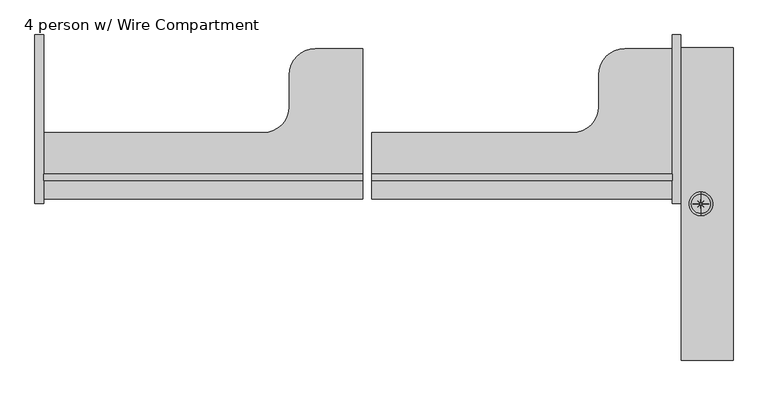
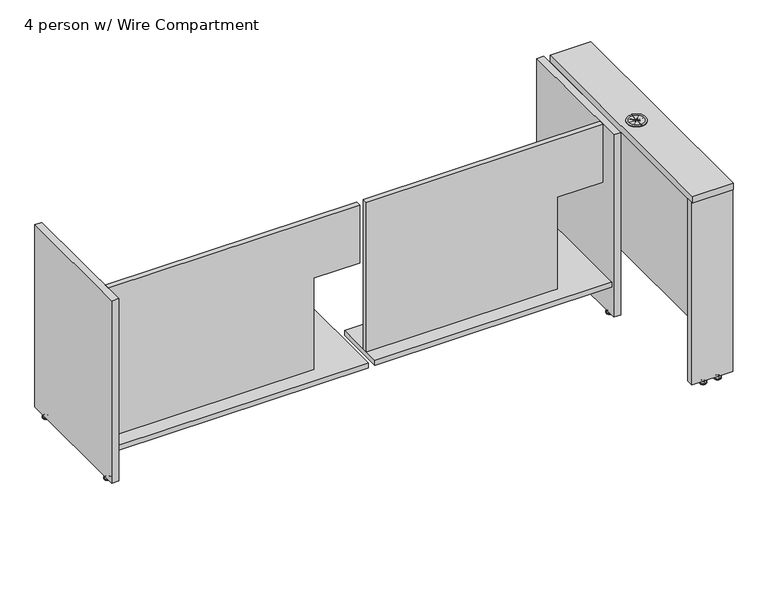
"""IFC4 building model written with IfcOpenShell, lengths in millimetres: furniture geometry, Nova Solutions - Collaboration Table - Boat_4-6 person : 4 person w/ Wire Compartment."""

from ifc_helpers import new_model, si_unit, point, frame, frame_2d, origin, place, context, project, spatial, polyline, circle_curve, ellipse_curve, trimmed, segment, composite_curve, outline, extrude, source, transform, mapped, element, save
from ifc_brep_helpers import plane_surface, cylinder_surface, revolved_surface, advanced_brep


def furniture_4_person_w_wire_compartment_36183c5d(model_context):
    return source(origin(), model_context, "Body", "SolidModel", [
        advanced_brep(
        [(981.65, -34.925, 762.0), (981.65, 34.925, 762.0), (981.65, 24.6435157, 762.0), (980.503542, 2.7677944, 762.0), (964.2244029, 17.4255971, 762.0), (978.8822056, 1.146458, 762.0), (957.0064843, 0.0, 762.0), (978.8822056, -1.146458, 762.0), (964.2244029, -17.4255971, 762.0), (980.503542, -2.7677944, 762.0), (981.65, -24.6435157, 762.0), (982.796458, -2.7677944, 762.0), (999.0755971, -17.4255971, 762.0), (984.4177944, -1.146458, 762.0), (1006.2935157, 0.0, 762.0), (984.4177944, 1.146458, 762.0), (999.0755971, 17.4255971, 762.0), (982.796458, 2.7677944, 762.0), (981.65, -34.925, 763.3787817), (981.65, 34.925, 763.3787817), (981.65, -28.7119174, 765.175), (981.65, 28.7119174, 765.175), (981.65, -24.6435157, 765.175), (980.503542, -2.7677944, 765.175), (964.2244029, -17.4255971, 765.175), (978.8822056, -1.146458, 765.175), (957.0064843, 0.0, 765.175), (978.8822056, 1.146458, 765.175), (964.2244029, 17.4255971, 765.175), (980.503542, 2.7677944, 765.175), (981.65, 24.6435157, 765.175), (982.796458, 2.7677944, 765.175), (999.0755971, 17.4255971, 765.175), (984.4177944, 1.146458, 765.175), (1006.2935157, 0.0, 765.175), (984.4177944, -1.146458, 765.175), (999.0755971, -17.4255971, 765.175), (982.796458, -2.7677944, 765.175)],
        [
            (0, 1, circle_curve(frame((981.65, 0.0, 762.0), z_axis=(0.0, 0.0, -1.0), x_axis=(0.0, 1.0, 0.0)), 34.925)),
            (1, 2),
            (2, 3),
            (3, 4),
            (4, 5),
            (5, 6),
            (6, 7),
            (7, 8),
            (8, 9),
            (9, 10),
            (10, 0),
            (1, 0, circle_curve(frame((981.65, 0.0, 762.0), z_axis=(0.0, 0.0, -1.0), x_axis=(0.0, 1.0, 0.0)), 34.925)),
            (10, 11),
            (11, 12),
            (12, 13),
            (13, 14),
            (14, 15),
            (15, 16),
            (16, 17),
            (17, 2),
            (0, 18),
            (18, 19, circle_curve(frame((981.65, 0.0, 763.3787817), z_axis=(0.0, 0.0, -1.0), x_axis=(0.0, 1.0, 0.0)), 34.925)),
            (19, 1),
            (19, 18, circle_curve(frame((981.65, 0.0, 763.3787817), z_axis=(0.0, 0.0, -1.0), x_axis=(0.0, 1.0, 0.0)), 34.925)),
            (18, 20, circle_curve(frame((981.65, -31.558813, 763.3787817), z_axis=(-1.0, 0.0, 0.0), x_axis=(0.0, -1.0, 0.0)), 3.366187)),
            (20, 21, circle_curve(frame((981.65, 0.0, 765.175), z_axis=(0.0, 0.0, -1.0), x_axis=(0.0, 1.0, 0.0)), 28.7119174)),
            (21, 19, circle_curve(frame((981.65, 31.558813, 763.3787817), z_axis=(-1.0, 0.0, 0.0), x_axis=(0.0, 1.0, 0.0)), 3.366187)),
            (21, 20, circle_curve(frame((981.65, 0.0, 765.175), z_axis=(0.0, 0.0, -1.0), x_axis=(0.0, 1.0, 0.0)), 28.7119174)),
            (20, 22),
            (22, 23),
            (23, 24),
            (24, 25),
            (25, 26),
            (26, 27),
            (27, 28),
            (28, 29),
            (29, 30),
            (30, 21),
            (30, 31),
            (31, 32),
            (32, 33),
            (33, 34),
            (34, 35),
            (35, 36),
            (36, 37),
            (37, 22),
            (26, 6),
            (5, 27),
            (25, 7),
            (24, 8),
            (23, 9),
            (22, 10),
            (37, 11),
            (36, 12),
            (35, 13),
            (34, 14),
            (33, 15),
            (32, 16),
            (31, 17),
            (30, 2),
            (29, 3),
            (28, 4),
        ],
        [
            plane_surface(frame((981.65, 0.0, 762.0), z_axis=(0.0, 0.0, -1.0), x_axis=(0.0, 1.0, 0.0))),
            cylinder_surface(frame((981.65, 0.0, 850.9), z_axis=(0.0, 0.0, 1.0), x_axis=(0.0, 1.0, 0.0)), 34.925),
            revolved_surface(trimmed(ellipse_curve(frame((981.65, 31.558813, 763.3787817), z_axis=(1.0, 0.0, 0.0), x_axis=(0.0, 1.0, 0.0)), 3.366187, 3.366187), [point((981.65, 34.925, 763.3787817))], [point((981.65, 28.7119174, 765.175))], True, "CARTESIAN"), (981.65, 0.0, 850.9), (0.0, 0.0, 1.0)),
            plane_surface(frame((981.65, 0.0, 765.175), z_axis=(0.0, 0.0, 1.0), x_axis=(0.0, 1.0, 0.0))),
            plane_surface(frame((981.65, 1.2915119, 787.4), z_axis=(0.05233595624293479, -0.9986295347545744, 0.0), x_axis=(0.0, 0.0, -1.0))),
            plane_surface(frame((957.0064843, 0.0, 787.4), z_axis=(0.052335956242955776, 0.9986295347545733, 0.0), x_axis=(0.0, 0.0, -1.0))),
            plane_surface(frame((980.7367632, 0.9132368, 787.4), z_axis=(0.7431448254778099, -0.6691306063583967, 0.0), x_axis=(0.0, 0.0, -1.0))),
            plane_surface(frame((964.2244029, -17.4255971, 787.4), z_axis=(-0.6691306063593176, 0.7431448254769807, 0.0), x_axis=(0.0, 0.0, -1.0))),
            plane_surface(frame((980.3584881, 0.0, 787.4), z_axis=(0.9986295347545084, 0.05233595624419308, 0.0), x_axis=(0.0, 0.0, -1.0))),
            plane_surface(frame((981.65, -24.6435157, 787.4), z_axis=(-0.9986295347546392, 0.05233595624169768, 0.0), x_axis=(0.0, 0.0, -1.0))),
            plane_surface(frame((980.7367632, -0.9132368, 787.4), z_axis=(0.6691306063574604, 0.743144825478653, 0.0), x_axis=(0.0, 0.0, -1.0))),
            plane_surface(frame((999.0755971, -17.4255971, 787.4), z_axis=(-0.7431448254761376, -0.669130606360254, 0.0), x_axis=(0.0, 0.0, -1.0))),
            plane_surface(frame((981.65, -1.2915119, 787.4), z_axis=(-0.052335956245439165, 0.9986295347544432, 0.0), x_axis=(0.0, 0.0, -1.0))),
            plane_surface(frame((1006.2935157, 0.0, 787.4), z_axis=(-0.05233595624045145, -0.9986295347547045, 0.0), x_axis=(0.0, 0.0, -1.0))),
            plane_surface(frame((982.5632368, -0.9132368, 787.4), z_axis=(-0.7431448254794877, 0.6691306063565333, 0.0), x_axis=(0.0, 0.0, -1.0))),
            plane_surface(frame((999.0755971, 17.4255971, 787.4), z_axis=(0.669130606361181, -0.7431448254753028, 0.0), x_axis=(0.0, 0.0, -1.0))),
            plane_surface(frame((982.9415119, 0.0, 787.4), z_axis=(-0.9986295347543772, -0.05233595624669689, 0.0), x_axis=(0.0, 0.0, -1.0))),
            plane_surface(frame((981.65, 24.6435157, 787.4), z_axis=(0.9986295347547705, -0.05233595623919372, 0.0), x_axis=(0.0, 0.0, -1.0))),
            plane_surface(frame((982.5632368, 0.9132368, 787.4), z_axis=(-0.6691306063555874, -0.7431448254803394, 0.0), x_axis=(0.0, 0.0, -1.0))),
            plane_surface(frame((964.2244029, 17.4255971, 787.4), z_axis=(0.743144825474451, 0.669130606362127, 0.0), x_axis=(0.0, 0.0, -1.0))),
        ],
        [
            (0, [[1, 2, 3, 4, 5, 6, 7, 8, 9, 10, 11]]),
            (0, [[12, -11, 13, 14, 15, 16, 17, 18, 19, 20, -2]]),
            (1, [[-1, 21, 22, 23]]),
            (1, [[-12, -23, 24, -21]]),
            (2, [[-22, 25, 26, 27]]),
            (2, [[-24, -27, 28, -25]]),
            (3, [[-26, 29, 30, 31, 32, 33, 34, 35, 36, 37, 38]]),
            (3, [[-28, -38, 39, 40, 41, 42, 43, 44, 45, 46, -29]]),
            (4, [[47, -6, 48, -34]]),
            (5, [[-47, -33, 49, -7]]),
            (6, [[50, -8, -49, -32]]),
            (7, [[-50, -31, 51, -9]]),
            (8, [[52, -10, -51, -30]]),
            (9, [[-52, -46, 53, -13]]),
            (10, [[54, -14, -53, -45]]),
            (11, [[-54, -44, 55, -15]]),
            (12, [[56, -16, -55, -43]]),
            (13, [[-56, -42, 57, -17]]),
            (14, [[58, -18, -57, -41]]),
            (15, [[-58, -40, 59, -19]]),
            (16, [[60, -20, -59, -39]]),
            (17, [[-60, -37, 61, -3]]),
            (18, [[62, -4, -61, -36]]),
            (19, [[-62, -35, -48, -5]]),
        ],
    ),
        advanced_brep(
        [(1027.6359375, 451.0276506, 11.1125), (1027.6359375, 437.6723494, 11.1125), (1027.6359375, 444.35, 11.1125), (1027.6359375, 451.0276506, 9.525), (1027.6359375, 437.6723494, 9.525), (1027.6359375, 456.2355135, 4.7748687), (1027.6359375, 432.4644865, 4.7748687), (1027.6359375, 457.0966506, 3.989419), (1027.6359375, 431.6033494, 3.989419), (1027.6359375, 457.0966506, 3.175), (1027.6359375, 431.6033494, 3.175), (1027.6359375, 456.2459119, 0.0), (1027.6359375, 432.4540881, 0.0), (1027.6359375, 444.35, 0.0)],
        [
            (0, 1, circle_curve(frame((1027.6359375, 444.35, 11.1125), z_axis=(0.0, 0.0, 1.0), x_axis=(0.0, -1.0, 0.0)), 6.6776506)),
            (1, 2),
            (2, 0),
            (1, 0, circle_curve(frame((1027.6359375, 444.35, 11.1125), z_axis=(0.0, 0.0, 1.0), x_axis=(0.0, -1.0, 0.0)), 6.6776506)),
            (3, 4, circle_curve(frame((1027.6359375, 444.35, 9.525), z_axis=(0.0, 0.0, 1.0), x_axis=(0.0, -1.0, 0.0)), 6.6776506)),
            (4, 1),
            (0, 3),
            (4, 3, circle_curve(frame((1027.6359375, 444.35, 9.525), z_axis=(0.0, 0.0, 1.0), x_axis=(0.0, -1.0, 0.0)), 6.6776506)),
            (5, 6, circle_curve(frame((1027.6359375, 444.35, 4.7748687), z_axis=(0.0, 0.0, 1.0), x_axis=(0.0, -1.0, 0.0)), 11.8855135)),
            (6, 4, circle_curve(frame((1027.6359375, 431.4179373, 11.1521822), z_axis=(1.0, 0.0, 0.0), x_axis=(0.0, 1.0, 0.0)), 6.462615)),
            (3, 5, circle_curve(frame((1027.6359375, 457.2820627, 11.1521822), z_axis=(1.0, 0.0, 0.0), x_axis=(0.0, -1.0, 0.0)), 6.462615)),
            (6, 5, circle_curve(frame((1027.6359375, 444.35, 4.7748687), z_axis=(0.0, 0.0, 1.0), x_axis=(0.0, -1.0, 0.0)), 11.8855135)),
            (7, 8, circle_curve(frame((1027.6359375, 444.35, 3.989419), z_axis=(0.0, 0.0, 1.0), x_axis=(0.0, -1.0, 0.0)), 12.7466506)),
            (8, 6, circle_curve(frame((1027.6359375, 432.6375368, 3.7203591), z_axis=(-1.0, 0.0, 0.0), x_axis=(0.0, 1.0, 0.0)), 1.0686145)),
            (5, 7, circle_curve(frame((1027.6359375, 456.0624632, 3.7203591), z_axis=(-1.0, 0.0, 0.0), x_axis=(0.0, -1.0, 0.0)), 1.0686145)),
            (8, 7, circle_curve(frame((1027.6359375, 444.35, 3.989419), z_axis=(0.0, 0.0, 1.0), x_axis=(0.0, -1.0, 0.0)), 12.7466506)),
            (9, 10, circle_curve(frame((1027.6359375, 444.35, 3.175), z_axis=(0.0, 0.0, 1.0), x_axis=(0.0, -1.0, 0.0)), 12.7466506)),
            (10, 8),
            (7, 9),
            (10, 9, circle_curve(frame((1027.6359375, 444.35, 3.175), z_axis=(0.0, 0.0, 1.0), x_axis=(0.0, -1.0, 0.0)), 12.7466506)),
            (11, 12, circle_curve(frame((1027.6359375, 444.35, 0.0), z_axis=(0.0, 0.0, 1.0), x_axis=(0.0, -1.0, 0.0)), 11.8959119)),
            (12, 10),
            (9, 11),
            (12, 11, circle_curve(frame((1027.6359375, 444.35, 0.0), z_axis=(0.0, 0.0, 1.0), x_axis=(0.0, -1.0, 0.0)), 11.8959119)),
            (13, 12),
            (11, 13),
        ],
        [
            plane_surface(frame((1027.6359375, 444.35, 11.1125), z_axis=(0.0, 0.0, 1.0), x_axis=(0.0, -1.0, 0.0))),
            cylinder_surface(frame((1027.6359375, 444.35, 43.2095994), z_axis=(0.0, 0.0, -1.0), x_axis=(0.0, -1.0, 0.0)), 6.6776506),
            revolved_surface(trimmed(ellipse_curve(frame((1027.6359375, 431.4179373, 11.1521822), z_axis=(-1.0, 0.0, 0.0), x_axis=(0.0, 1.0, 0.0)), 6.462615, 6.462615), [point((1027.6359375, 437.6723494, 9.525))], [point((1027.6359375, 432.4644865, 4.7748687))], True, "CARTESIAN"), (1027.6359375, 444.35, 43.2095994), (0.0, 0.0, -1.0)),
            revolved_surface(trimmed(ellipse_curve(frame((1027.6359375, 432.6375368, 3.7203591), z_axis=(1.0, 0.0, 0.0), x_axis=(0.0, 1.0, 0.0)), 1.0686145, 1.0686145), [point((1027.6359375, 432.4644865, 4.7748687))], [point((1027.6359375, 431.6033494, 3.989419))], True, "CARTESIAN"), (1027.6359375, 444.35, 43.2095994), (0.0, 0.0, -1.0)),
            cylinder_surface(frame((1027.6359375, 444.35, 43.2095994), z_axis=(0.0, 0.0, -1.0), x_axis=(0.0, -1.0, 0.0)), 12.7466506),
            revolved_surface(polyline([(1027.6359375, 431.6033494, 3.175), (1027.6359375, 432.4540881, 0.0)]), (1027.6359375, 444.35, 43.2095994), (0.0, 0.0, -1.0)),
            plane_surface(frame((1027.6359375, 444.35, 0.0), z_axis=(0.0, 0.0, -1.0), x_axis=(0.0, -1.0, 0.0))),
        ],
        [
            (0, [[1, 2, 3]]),
            (0, [[4, -3, -2]]),
            (1, [[5, 6, -1, 7]]),
            (1, [[8, -7, -4, -6]]),
            (2, [[9, 10, -5, 11]]),
            (2, [[12, -11, -8, -10]]),
            (3, [[13, 14, -9, 15]]),
            (3, [[16, -15, -12, -14]]),
            (4, [[17, 18, -13, 19]]),
            (4, [[20, -19, -16, -18]]),
            (5, [[21, 22, -17, 23]]),
            (5, [[24, -23, -20, -22]]),
            (6, [[25, -21, 26]]),
            (6, [[-26, -24, -25]]),
        ],
    ),
        advanced_brep(
        [(973.2640625, 451.0276506, 11.1125), (973.2640625, 437.6723494, 11.1125), (973.2640625, 444.35, 11.1125), (973.2640625, 451.0276506, 9.525), (973.2640625, 437.6723494, 9.525), (973.2640625, 456.2355135, 4.7748687), (973.2640625, 432.4644865, 4.7748687), (973.2640625, 457.0966506, 3.989419), (973.2640625, 431.6033494, 3.989419), (973.2640625, 457.0966506, 3.175), (973.2640625, 431.6033494, 3.175), (973.2640625, 456.2459119, 0.0), (973.2640625, 432.4540881, 0.0), (973.2640625, 444.35, 0.0)],
        [
            (0, 1, circle_curve(frame((973.2640625, 444.35, 11.1125), z_axis=(0.0, 0.0, 1.0), x_axis=(0.0, -1.0, 0.0)), 6.6776506)),
            (1, 2),
            (2, 0),
            (1, 0, circle_curve(frame((973.2640625, 444.35, 11.1125), z_axis=(0.0, 0.0, 1.0), x_axis=(0.0, -1.0, 0.0)), 6.6776506)),
            (3, 4, circle_curve(frame((973.2640625, 444.35, 9.525), z_axis=(0.0, 0.0, 1.0), x_axis=(0.0, -1.0, 0.0)), 6.6776506)),
            (4, 1),
            (0, 3),
            (4, 3, circle_curve(frame((973.2640625, 444.35, 9.525), z_axis=(0.0, 0.0, 1.0), x_axis=(0.0, -1.0, 0.0)), 6.6776506)),
            (5, 6, circle_curve(frame((973.2640625, 444.35, 4.7748687), z_axis=(0.0, 0.0, 1.0), x_axis=(0.0, -1.0, 0.0)), 11.8855135)),
            (6, 4, circle_curve(frame((973.2640625, 431.4179373, 11.1521822), z_axis=(1.0, 0.0, 0.0), x_axis=(0.0, 1.0, 0.0)), 6.462615)),
            (3, 5, circle_curve(frame((973.2640625, 457.2820627, 11.1521822), z_axis=(1.0, 0.0, 0.0), x_axis=(0.0, -1.0, 0.0)), 6.462615)),
            (6, 5, circle_curve(frame((973.2640625, 444.35, 4.7748687), z_axis=(0.0, 0.0, 1.0), x_axis=(0.0, -1.0, 0.0)), 11.8855135)),
            (7, 8, circle_curve(frame((973.2640625, 444.35, 3.989419), z_axis=(0.0, 0.0, 1.0), x_axis=(0.0, -1.0, 0.0)), 12.7466506)),
            (8, 6, circle_curve(frame((973.2640625, 432.6375368, 3.7203591), z_axis=(-1.0, 0.0, 0.0), x_axis=(0.0, 1.0, 0.0)), 1.0686145)),
            (5, 7, circle_curve(frame((973.2640625, 456.0624632, 3.7203591), z_axis=(-1.0, 0.0, 0.0), x_axis=(0.0, -1.0, 0.0)), 1.0686145)),
            (8, 7, circle_curve(frame((973.2640625, 444.35, 3.989419), z_axis=(0.0, 0.0, 1.0), x_axis=(0.0, -1.0, 0.0)), 12.7466506)),
            (9, 10, circle_curve(frame((973.2640625, 444.35, 3.175), z_axis=(0.0, 0.0, 1.0), x_axis=(0.0, -1.0, 0.0)), 12.7466506)),
            (10, 8),
            (7, 9),
            (10, 9, circle_curve(frame((973.2640625, 444.35, 3.175), z_axis=(0.0, 0.0, 1.0), x_axis=(0.0, -1.0, 0.0)), 12.7466506)),
            (11, 12, circle_curve(frame((973.2640625, 444.35, 0.0), z_axis=(0.0, 0.0, 1.0), x_axis=(0.0, -1.0, 0.0)), 11.8959119)),
            (12, 10),
            (9, 11),
            (12, 11, circle_curve(frame((973.2640625, 444.35, 0.0), z_axis=(0.0, 0.0, 1.0), x_axis=(0.0, -1.0, 0.0)), 11.8959119)),
            (13, 12),
            (11, 13),
        ],
        [
            plane_surface(frame((973.2640625, 444.35, 11.1125), z_axis=(0.0, 0.0, 1.0), x_axis=(0.0, -1.0, 0.0))),
            cylinder_surface(frame((973.2640625, 444.35, 43.2095994), z_axis=(0.0, 0.0, -1.0), x_axis=(0.0, -1.0, 0.0)), 6.6776506),
            revolved_surface(trimmed(ellipse_curve(frame((973.2640625, 431.4179373, 11.1521822), z_axis=(-1.0, 0.0, 0.0), x_axis=(0.0, 1.0, 0.0)), 6.462615, 6.462615), [point((973.2640625, 437.6723494, 9.525))], [point((973.2640625, 432.4644865, 4.7748687))], True, "CARTESIAN"), (973.2640625, 444.35, 43.2095994), (0.0, 0.0, -1.0)),
            revolved_surface(trimmed(ellipse_curve(frame((973.2640625, 432.6375368, 3.7203591), z_axis=(1.0, 0.0, 0.0), x_axis=(0.0, 1.0, 0.0)), 1.0686145, 1.0686145), [point((973.2640625, 432.4644865, 4.7748687))], [point((973.2640625, 431.6033494, 3.989419))], True, "CARTESIAN"), (973.2640625, 444.35, 43.2095994), (0.0, 0.0, -1.0)),
            cylinder_surface(frame((973.2640625, 444.35, 43.2095994), z_axis=(0.0, 0.0, -1.0), x_axis=(0.0, -1.0, 0.0)), 12.7466506),
            revolved_surface(polyline([(973.2640625, 431.6033494, 3.175), (973.2640625, 432.4540881, 0.0)]), (973.2640625, 444.35, 43.2095994), (0.0, 0.0, -1.0)),
            plane_surface(frame((973.2640625, 444.35, 0.0), z_axis=(0.0, 0.0, -1.0), x_axis=(0.0, -1.0, 0.0))),
        ],
        [
            (0, [[1, 2, 3]]),
            (0, [[4, -3, -2]]),
            (1, [[5, 6, -1, 7]]),
            (1, [[8, -7, -4, -6]]),
            (2, [[9, 10, -5, 11]]),
            (2, [[12, -11, -8, -10]]),
            (3, [[13, 14, -9, 15]]),
            (3, [[16, -15, -12, -14]]),
            (4, [[17, 18, -13, 19]]),
            (4, [[20, -19, -16, -18]]),
            (5, [[21, 22, -17, 23]]),
            (5, [[24, -23, -20, -22]]),
            (6, [[25, -21, 26]]),
            (6, [[-26, -24, -25]]),
        ],
    ),
        extrude(outline(polyline([(924.25, 457.2), (1076.65, 457.2), (1076.65, 431.5), (924.25, 431.5), (924.25, 457.2)])), frame((0.0, 0.0, 15.6), z_axis=(0.0, 0.0, 1.0), x_axis=(1.0, 0.0, 0.0)), (0.0, 0.0, 1.0), 720.7),
        advanced_brep(
        [(1027.6359375, -451.0276506, 11.1125), (1027.6359375, -444.35, 11.1125), (1027.6359375, -437.6723494, 11.1125), (1027.6359375, -451.0276506, 9.525), (1027.6359375, -437.6723494, 9.525), (1027.6359375, -456.2355135, 4.7748687), (1027.6359375, -432.4644865, 4.7748687), (1027.6359375, -457.0966506, 3.989419), (1027.6359375, -431.6033494, 3.989419), (1027.6359375, -457.0966506, 3.175), (1027.6359375, -431.6033494, 3.175), (1027.6359375, -456.2459119, 0.0), (1027.6359375, -432.4540881, 0.0), (1027.6359375, -444.35, 0.0)],
        [
            (0, 1),
            (1, 2),
            (2, 0, circle_curve(frame((1027.6359375, -444.35, 11.1125), z_axis=(0.0, 0.0, 1.0), x_axis=(0.0, 1.0, 0.0)), 6.6776506)),
            (0, 2, circle_curve(frame((1027.6359375, -444.35, 11.1125), z_axis=(0.0, 0.0, 1.0), x_axis=(0.0, 1.0, 0.0)), 6.6776506)),
            (3, 0),
            (2, 4),
            (4, 3, circle_curve(frame((1027.6359375, -444.35, 9.525), z_axis=(0.0, 0.0, 1.0), x_axis=(0.0, 1.0, 0.0)), 6.6776506)),
            (3, 4, circle_curve(frame((1027.6359375, -444.35, 9.525), z_axis=(0.0, 0.0, 1.0), x_axis=(0.0, 1.0, 0.0)), 6.6776506)),
            (5, 3, circle_curve(frame((1027.6359375, -457.2820627, 11.1521822), z_axis=(1.0, 0.0, 0.0), x_axis=(0.0, 1.0, 0.0)), 6.462615)),
            (4, 6, circle_curve(frame((1027.6359375, -431.4179373, 11.1521822), z_axis=(1.0, 0.0, 0.0), x_axis=(0.0, -1.0, 0.0)), 6.462615)),
            (6, 5, circle_curve(frame((1027.6359375, -444.35, 4.7748687), z_axis=(0.0, 0.0, 1.0), x_axis=(0.0, 1.0, 0.0)), 11.8855135)),
            (5, 6, circle_curve(frame((1027.6359375, -444.35, 4.7748687), z_axis=(0.0, 0.0, 1.0), x_axis=(0.0, 1.0, 0.0)), 11.8855135)),
            (7, 5, circle_curve(frame((1027.6359375, -456.0624632, 3.7203591), z_axis=(-1.0, 0.0, 0.0), x_axis=(0.0, 1.0, 0.0)), 1.0686145)),
            (6, 8, circle_curve(frame((1027.6359375, -432.6375368, 3.7203591), z_axis=(-1.0, 0.0, 0.0), x_axis=(0.0, -1.0, 0.0)), 1.0686145)),
            (8, 7, circle_curve(frame((1027.6359375, -444.35, 3.989419), z_axis=(0.0, 0.0, 1.0), x_axis=(0.0, 1.0, 0.0)), 12.7466506)),
            (7, 8, circle_curve(frame((1027.6359375, -444.35, 3.989419), z_axis=(0.0, 0.0, 1.0), x_axis=(0.0, 1.0, 0.0)), 12.7466506)),
            (9, 7),
            (8, 10),
            (10, 9, circle_curve(frame((1027.6359375, -444.35, 3.175), z_axis=(0.0, 0.0, 1.0), x_axis=(0.0, 1.0, 0.0)), 12.7466506)),
            (9, 10, circle_curve(frame((1027.6359375, -444.35, 3.175), z_axis=(0.0, 0.0, 1.0), x_axis=(0.0, 1.0, 0.0)), 12.7466506)),
            (11, 9),
            (10, 12),
            (12, 11, circle_curve(frame((1027.6359375, -444.35, 0.0), z_axis=(0.0, 0.0, 1.0), x_axis=(0.0, 1.0, 0.0)), 11.8959119)),
            (11, 12, circle_curve(frame((1027.6359375, -444.35, 0.0), z_axis=(0.0, 0.0, 1.0), x_axis=(0.0, 1.0, 0.0)), 11.8959119)),
            (13, 11),
            (12, 13),
        ],
        [
            plane_surface(frame((1027.6359375, -444.35, 11.1125), z_axis=(0.0, 0.0, 1.0), x_axis=(0.0, 1.0, 0.0))),
            cylinder_surface(frame((1027.6359375, -444.35, 43.2095994), z_axis=(0.0, 0.0, -1.0), x_axis=(0.0, 1.0, 0.0)), 6.6776506),
            revolved_surface(trimmed(ellipse_curve(frame((1027.6359375, -431.4179373, 11.1521822), z_axis=(1.0, 0.0, 0.0), x_axis=(0.0, -1.0, 0.0)), 6.462615, 6.462615), [point((1027.6359375, -437.6723494, 9.525))], [point((1027.6359375, -432.4644865, 4.7748687))], True, "CARTESIAN"), (1027.6359375, -444.35, 43.2095994), (0.0, 0.0, -1.0)),
            revolved_surface(trimmed(ellipse_curve(frame((1027.6359375, -432.6375368, 3.7203591), z_axis=(-1.0, 0.0, 0.0), x_axis=(0.0, -1.0, 0.0)), 1.0686145, 1.0686145), [point((1027.6359375, -432.4644865, 4.7748687))], [point((1027.6359375, -431.6033494, 3.989419))], True, "CARTESIAN"), (1027.6359375, -444.35, 43.2095994), (0.0, 0.0, -1.0)),
            cylinder_surface(frame((1027.6359375, -444.35, 43.2095994), z_axis=(0.0, 0.0, -1.0), x_axis=(0.0, 1.0, 0.0)), 12.7466506),
            revolved_surface(polyline([(1027.6359375, -431.6033494, 3.175), (1027.6359375, -432.4540881, 0.0)]), (1027.6359375, -444.35, 43.2095994), (0.0, 0.0, -1.0)),
            plane_surface(frame((1027.6359375, -444.35, 0.0), z_axis=(0.0, 0.0, -1.0), x_axis=(0.0, 1.0, 0.0))),
        ],
        [
            (0, [[1, 2, 3]]),
            (0, [[-2, -1, 4]]),
            (1, [[5, -3, 6, 7]]),
            (1, [[-6, -4, -5, 8]]),
            (2, [[9, -7, 10, 11]]),
            (2, [[-10, -8, -9, 12]]),
            (3, [[13, -11, 14, 15]]),
            (3, [[-14, -12, -13, 16]]),
            (4, [[17, -15, 18, 19]]),
            (4, [[-18, -16, -17, 20]]),
            (5, [[21, -19, 22, 23]]),
            (5, [[-22, -20, -21, 24]]),
            (6, [[25, -23, 26]]),
            (6, [[-26, -24, -25]]),
        ],
    ),
        advanced_brep(
        [(973.2640625, -451.0276506, 11.1125), (973.2640625, -444.35, 11.1125), (973.2640625, -437.6723494, 11.1125), (973.2640625, -451.0276506, 9.525), (973.2640625, -437.6723494, 9.525), (973.2640625, -456.2355135, 4.7748687), (973.2640625, -432.4644865, 4.7748687), (973.2640625, -457.0966506, 3.989419), (973.2640625, -431.6033494, 3.989419), (973.2640625, -457.0966506, 3.175), (973.2640625, -431.6033494, 3.175), (973.2640625, -456.2459119, 0.0), (973.2640625, -432.4540881, 0.0), (973.2640625, -444.35, 0.0)],
        [
            (0, 1),
            (1, 2),
            (2, 0, circle_curve(frame((973.2640625, -444.35, 11.1125), z_axis=(0.0, 0.0, 1.0), x_axis=(0.0, 1.0, 0.0)), 6.6776506)),
            (0, 2, circle_curve(frame((973.2640625, -444.35, 11.1125), z_axis=(0.0, 0.0, 1.0), x_axis=(0.0, 1.0, 0.0)), 6.6776506)),
            (3, 0),
            (2, 4),
            (4, 3, circle_curve(frame((973.2640625, -444.35, 9.525), z_axis=(0.0, 0.0, 1.0), x_axis=(0.0, 1.0, 0.0)), 6.6776506)),
            (3, 4, circle_curve(frame((973.2640625, -444.35, 9.525), z_axis=(0.0, 0.0, 1.0), x_axis=(0.0, 1.0, 0.0)), 6.6776506)),
            (5, 3, circle_curve(frame((973.2640625, -457.2820627, 11.1521822), z_axis=(1.0, 0.0, 0.0), x_axis=(0.0, 1.0, 0.0)), 6.462615)),
            (4, 6, circle_curve(frame((973.2640625, -431.4179373, 11.1521822), z_axis=(1.0, 0.0, 0.0), x_axis=(0.0, -1.0, 0.0)), 6.462615)),
            (6, 5, circle_curve(frame((973.2640625, -444.35, 4.7748687), z_axis=(0.0, 0.0, 1.0), x_axis=(0.0, 1.0, 0.0)), 11.8855135)),
            (5, 6, circle_curve(frame((973.2640625, -444.35, 4.7748687), z_axis=(0.0, 0.0, 1.0), x_axis=(0.0, 1.0, 0.0)), 11.8855135)),
            (7, 5, circle_curve(frame((973.2640625, -456.0624632, 3.7203591), z_axis=(-1.0, 0.0, 0.0), x_axis=(0.0, 1.0, 0.0)), 1.0686145)),
            (6, 8, circle_curve(frame((973.2640625, -432.6375368, 3.7203591), z_axis=(-1.0, 0.0, 0.0), x_axis=(0.0, -1.0, 0.0)), 1.0686145)),
            (8, 7, circle_curve(frame((973.2640625, -444.35, 3.989419), z_axis=(0.0, 0.0, 1.0), x_axis=(0.0, 1.0, 0.0)), 12.7466506)),
            (7, 8, circle_curve(frame((973.2640625, -444.35, 3.989419), z_axis=(0.0, 0.0, 1.0), x_axis=(0.0, 1.0, 0.0)), 12.7466506)),
            (9, 7),
            (8, 10),
            (10, 9, circle_curve(frame((973.2640625, -444.35, 3.175), z_axis=(0.0, 0.0, 1.0), x_axis=(0.0, 1.0, 0.0)), 12.7466506)),
            (9, 10, circle_curve(frame((973.2640625, -444.35, 3.175), z_axis=(0.0, 0.0, 1.0), x_axis=(0.0, 1.0, 0.0)), 12.7466506)),
            (11, 9),
            (10, 12),
            (12, 11, circle_curve(frame((973.2640625, -444.35, 0.0), z_axis=(0.0, 0.0, 1.0), x_axis=(0.0, 1.0, 0.0)), 11.8959119)),
            (11, 12, circle_curve(frame((973.2640625, -444.35, 0.0), z_axis=(0.0, 0.0, 1.0), x_axis=(0.0, 1.0, 0.0)), 11.8959119)),
            (13, 11),
            (12, 13),
        ],
        [
            plane_surface(frame((973.2640625, -444.35, 11.1125), z_axis=(0.0, 0.0, 1.0), x_axis=(0.0, 1.0, 0.0))),
            cylinder_surface(frame((973.2640625, -444.35, 43.2095994), z_axis=(0.0, 0.0, -1.0), x_axis=(0.0, 1.0, 0.0)), 6.6776506),
            revolved_surface(trimmed(ellipse_curve(frame((973.2640625, -431.4179373, 11.1521822), z_axis=(1.0, 0.0, 0.0), x_axis=(0.0, -1.0, 0.0)), 6.462615, 6.462615), [point((973.2640625, -437.6723494, 9.525))], [point((973.2640625, -432.4644865, 4.7748687))], True, "CARTESIAN"), (973.2640625, -444.35, 43.2095994), (0.0, 0.0, -1.0)),
            revolved_surface(trimmed(ellipse_curve(frame((973.2640625, -432.6375368, 3.7203591), z_axis=(-1.0, 0.0, 0.0), x_axis=(0.0, -1.0, 0.0)), 1.0686145, 1.0686145), [point((973.2640625, -432.4644865, 4.7748687))], [point((973.2640625, -431.6033494, 3.989419))], True, "CARTESIAN"), (973.2640625, -444.35, 43.2095994), (0.0, 0.0, -1.0)),
            cylinder_surface(frame((973.2640625, -444.35, 43.2095994), z_axis=(0.0, 0.0, -1.0), x_axis=(0.0, 1.0, 0.0)), 12.7466506),
            revolved_surface(polyline([(973.2640625, -431.6033494, 3.175), (973.2640625, -432.4540881, 0.0)]), (973.2640625, -444.35, 43.2095994), (0.0, 0.0, -1.0)),
            plane_surface(frame((973.2640625, -444.35, 0.0), z_axis=(0.0, 0.0, -1.0), x_axis=(0.0, 1.0, 0.0))),
        ],
        [
            (0, [[1, 2, 3]]),
            (0, [[-2, -1, 4]]),
            (1, [[5, -3, 6, 7]]),
            (1, [[-6, -4, -5, 8]]),
            (2, [[9, -7, 10, 11]]),
            (2, [[-10, -8, -9, 12]]),
            (3, [[13, -11, 14, 15]]),
            (3, [[-14, -12, -13, 16]]),
            (4, [[17, -15, 18, 19]]),
            (4, [[-18, -16, -17, 20]]),
            (5, [[21, -19, 22, 23]]),
            (5, [[-22, -20, -21, 24]]),
            (6, [[25, -23, 26]]),
            (6, [[-26, -24, -25]]),
        ],
    ),
        extrude(outline(polyline([(924.25, -457.2), (924.25, -431.5), (1076.65, -431.5), (1076.65, -457.2), (924.25, -457.2)])), frame((0.0, 0.0, 15.6), z_axis=(0.0, 0.0, 1.0), x_axis=(1.0, 0.0, 0.0)), (0.0, 0.0, 1.0), 720.7),
        extrude(outline(polyline([(1076.07, -431.0), (1057.02, -431.0), (1057.02, 431.0), (1076.07, 431.0), (1076.07, -431.0)])), frame((0.0, 0.0, 85.615), z_axis=(0.0, 0.0, 1.0), x_axis=(1.0, 0.0, 0.0)), (0.0, 0.0, 1.0), 625.285),
        extrude(outline(polyline([(1076.65, 460.1), (1076.65, -460.1), (924.25, -460.1), (924.25, 460.1), (1076.65, 460.1)])), frame((0.0, 0.0, 736.3), z_axis=(0.0, 0.0, 1.0), x_axis=(1.0, 0.0, 0.0)), (0.0, 0.0, 1.0), 25.7),
        extrude(outline(polyline([(736.3, 12.85), (145.5, 12.85), (145.5, 726.15), (507.4, 726.15), (507.4, 897.15), (736.3, 897.15), (736.3, 12.85)])), frame((0.0, 69.4, 0.0), z_axis=(0.0, 1.0, 0.0), x_axis=(0.0, 0.0, 1.0)), (0.0, 0.0, 1.0), 19.2),
        extrude(outline(composite_curve([segment(polyline([(897.15, 457.2625), (897.15, 14.1), (12.85, 14.1), (12.85, 210.4), (604.95, 210.4)]), True, "CONTINUOUS"), segment(trimmed(circle_curve(frame_2d((604.95, 286.6)), 76.2), [point((604.95, 210.4))], [point((681.15, 286.6))], True, "CARTESIAN"), True, "CONTINUOUS"), segment(polyline([(681.15, 286.6), (681.15, 381.0625)]), True, "CONTINUOUS"), segment(trimmed(circle_curve(frame_2d((757.35, 381.0625)), 76.2), [point((681.15, 381.0625))], [point((757.35, 457.2625))], False, "CARTESIAN"), True, "CONTINUOUS"), segment(polyline([(757.35, 457.2625), (897.15, 457.2625)]), True, "CONTINUOUS")], self_intersect=False)), frame((0.0, 0.0, 126.3), z_axis=(0.0, 0.0, 1.0), x_axis=(1.0, 0.0, 0.0)), (0.0, 0.0, 1.0), 19.2),
        advanced_brep(
        [(916.6776506, 448.9859375, 11.1125), (910.0, 448.9859375, 11.1125), (903.3223494, 448.9859375, 11.1125), (916.6776506, 448.9859375, 9.525), (903.3223494, 448.9859375, 9.525), (921.8855135, 448.9859375, 4.7748687), (898.1144865, 448.9859375, 4.7748687), (922.7466506, 448.9859375, 3.989419), (897.2533494, 448.9859375, 3.989419), (922.7466506, 448.9859375, 3.175), (897.2533494, 448.9859375, 3.175), (921.8959119, 448.9859375, 0.0), (898.1040881, 448.9859375, 0.0), (910.0, 448.9859375, 0.0)],
        [
            (0, 1),
            (1, 2),
            (2, 0, circle_curve(frame((910.0, 448.9859375, 11.1125), z_axis=(0.0, 0.0, 1.0), x_axis=(-1.0, 0.0, 0.0)), 6.6776506)),
            (0, 2, circle_curve(frame((910.0, 448.9859375, 11.1125), z_axis=(0.0, 0.0, 1.0), x_axis=(-1.0, 0.0, 0.0)), 6.6776506)),
            (3, 0),
            (2, 4),
            (4, 3, circle_curve(frame((910.0, 448.9859375, 9.525), z_axis=(0.0, 0.0, 1.0), x_axis=(-1.0, 0.0, 0.0)), 6.6776506)),
            (3, 4, circle_curve(frame((910.0, 448.9859375, 9.525), z_axis=(0.0, 0.0, 1.0), x_axis=(-1.0, 0.0, 0.0)), 6.6776506)),
            (5, 3, circle_curve(frame((922.9320627, 448.9859375, 11.1521822), z_axis=(0.0, 1.0, 0.0), x_axis=(-1.0, 0.0, 0.0)), 6.462615)),
            (4, 6, circle_curve(frame((897.0679373, 448.9859375, 11.1521822), z_axis=(0.0, 1.0, 0.0), x_axis=(1.0, 0.0, 0.0)), 6.462615)),
            (6, 5, circle_curve(frame((910.0, 448.9859375, 4.7748687), z_axis=(0.0, 0.0, 1.0), x_axis=(-1.0, 0.0, 0.0)), 11.8855135)),
            (5, 6, circle_curve(frame((910.0, 448.9859375, 4.7748687), z_axis=(0.0, 0.0, 1.0), x_axis=(-1.0, 0.0, 0.0)), 11.8855135)),
            (7, 5, circle_curve(frame((921.7124632, 448.9859375, 3.7203591), z_axis=(0.0, -1.0, 0.0), x_axis=(-1.0, 0.0, 0.0)), 1.0686145)),
            (6, 8, circle_curve(frame((898.2875368, 448.9859375, 3.7203591), z_axis=(0.0, -1.0, 0.0), x_axis=(1.0, 0.0, 0.0)), 1.0686145)),
            (8, 7, circle_curve(frame((910.0, 448.9859375, 3.989419), z_axis=(0.0, 0.0, 1.0), x_axis=(-1.0, 0.0, 0.0)), 12.7466506)),
            (7, 8, circle_curve(frame((910.0, 448.9859375, 3.989419), z_axis=(0.0, 0.0, 1.0), x_axis=(-1.0, 0.0, 0.0)), 12.7466506)),
            (9, 7),
            (8, 10),
            (10, 9, circle_curve(frame((910.0, 448.9859375, 3.175), z_axis=(0.0, 0.0, 1.0), x_axis=(-1.0, 0.0, 0.0)), 12.7466506)),
            (9, 10, circle_curve(frame((910.0, 448.9859375, 3.175), z_axis=(0.0, 0.0, 1.0), x_axis=(-1.0, 0.0, 0.0)), 12.7466506)),
            (11, 9),
            (10, 12),
            (12, 11, circle_curve(frame((910.0, 448.9859375, 0.0), z_axis=(0.0, 0.0, 1.0), x_axis=(-1.0, 0.0, 0.0)), 11.8959119)),
            (11, 12, circle_curve(frame((910.0, 448.9859375, 0.0), z_axis=(0.0, 0.0, 1.0), x_axis=(-1.0, 0.0, 0.0)), 11.8959119)),
            (13, 11),
            (12, 13),
        ],
        [
            plane_surface(frame((910.0, 448.9859375, 11.1125), z_axis=(0.0, 0.0, 1.0), x_axis=(-1.0, 0.0, 0.0))),
            cylinder_surface(frame((910.0, 448.9859375, 43.2095994), z_axis=(0.0, 0.0, -1.0), x_axis=(-1.0, 0.0, 0.0)), 6.6776506),
            revolved_surface(trimmed(ellipse_curve(frame((897.0679373, 448.9859375, 11.1521822), z_axis=(0.0, 1.0, 0.0), x_axis=(1.0, 0.0, 0.0)), 6.462615, 6.462615), [point((903.3223494, 448.9859375, 9.525))], [point((898.1144865, 448.9859375, 4.7748687))], True, "CARTESIAN"), (910.0, 448.9859375, 43.2095994), (0.0, 0.0, -1.0)),
            revolved_surface(trimmed(ellipse_curve(frame((898.2875368, 448.9859375, 3.7203591), z_axis=(0.0, -1.0, 0.0), x_axis=(1.0, 0.0, 0.0)), 1.0686145, 1.0686145), [point((898.1144865, 448.9859375, 4.7748687))], [point((897.2533494, 448.9859375, 3.989419))], True, "CARTESIAN"), (910.0, 448.9859375, 43.2095994), (0.0, 0.0, -1.0)),
            cylinder_surface(frame((910.0, 448.9859375, 43.2095994), z_axis=(0.0, 0.0, -1.0), x_axis=(-1.0, 0.0, 0.0)), 12.7466506),
            revolved_surface(polyline([(897.2533494, 448.9859375, 3.175), (898.1040881, 448.9859375, 0.0)]), (910.0, 448.9859375, 43.2095994), (0.0, 0.0, -1.0)),
            plane_surface(frame((910.0, 448.9859375, 0.0), z_axis=(0.0, 0.0, -1.0), x_axis=(-1.0, 0.0, 0.0))),
        ],
        [
            (0, [[1, 2, 3]]),
            (0, [[-2, -1, 4]]),
            (1, [[5, -3, 6, 7]]),
            (1, [[-6, -4, -5, 8]]),
            (2, [[9, -7, 10, 11]]),
            (2, [[-10, -8, -9, 12]]),
            (3, [[13, -11, 14, 15]]),
            (3, [[-14, -12, -13, 16]]),
            (4, [[17, -15, 18, 19]]),
            (4, [[-18, -16, -17, 20]]),
            (5, [[21, -19, 22, 23]]),
            (5, [[-22, -20, -21, 24]]),
            (6, [[25, -23, 26]]),
            (6, [[-26, -24, -25]]),
        ],
    ),
        advanced_brep(
        [(916.6776506, 50.4140625, 11.1125), (910.0, 50.4140625, 11.1125), (903.3223494, 50.4140625, 11.1125), (916.6776506, 50.4140625, 9.525), (903.3223494, 50.4140625, 9.525), (921.8855135, 50.4140625, 4.7748687), (898.1144865, 50.4140625, 4.7748687), (922.7466506, 50.4140625, 3.989419), (897.2533494, 50.4140625, 3.989419), (922.7466506, 50.4140625, 3.175), (897.2533494, 50.4140625, 3.175), (921.8959119, 50.4140625, 0.0), (898.1040881, 50.4140625, 0.0), (910.0, 50.4140625, 0.0)],
        [
            (0, 1),
            (1, 2),
            (2, 0, circle_curve(frame((910.0, 50.4140625, 11.1125), z_axis=(0.0, 0.0, 1.0), x_axis=(-1.0, 0.0, 0.0)), 6.6776506)),
            (0, 2, circle_curve(frame((910.0, 50.4140625, 11.1125), z_axis=(0.0, 0.0, 1.0), x_axis=(-1.0, 0.0, 0.0)), 6.6776506)),
            (3, 0),
            (2, 4),
            (4, 3, circle_curve(frame((910.0, 50.4140625, 9.525), z_axis=(0.0, 0.0, 1.0), x_axis=(-1.0, 0.0, 0.0)), 6.6776506)),
            (3, 4, circle_curve(frame((910.0, 50.4140625, 9.525), z_axis=(0.0, 0.0, 1.0), x_axis=(-1.0, 0.0, 0.0)), 6.6776506)),
            (5, 3, circle_curve(frame((922.9320627, 50.4140625, 11.1521822), z_axis=(0.0, 1.0, 0.0), x_axis=(-1.0, 0.0, 0.0)), 6.462615)),
            (4, 6, circle_curve(frame((897.0679373, 50.4140625, 11.1521822), z_axis=(0.0, 1.0, 0.0), x_axis=(1.0, 0.0, 0.0)), 6.462615)),
            (6, 5, circle_curve(frame((910.0, 50.4140625, 4.7748687), z_axis=(0.0, 0.0, 1.0), x_axis=(-1.0, 0.0, 0.0)), 11.8855135)),
            (5, 6, circle_curve(frame((910.0, 50.4140625, 4.7748687), z_axis=(0.0, 0.0, 1.0), x_axis=(-1.0, 0.0, 0.0)), 11.8855135)),
            (7, 5, circle_curve(frame((921.7124632, 50.4140625, 3.7203591), z_axis=(0.0, -1.0, 0.0), x_axis=(-1.0, 0.0, 0.0)), 1.0686145)),
            (6, 8, circle_curve(frame((898.2875368, 50.4140625, 3.7203591), z_axis=(0.0, -1.0, 0.0), x_axis=(1.0, 0.0, 0.0)), 1.0686145)),
            (8, 7, circle_curve(frame((910.0, 50.4140625, 3.989419), z_axis=(0.0, 0.0, 1.0), x_axis=(-1.0, 0.0, 0.0)), 12.7466506)),
            (7, 8, circle_curve(frame((910.0, 50.4140625, 3.989419), z_axis=(0.0, 0.0, 1.0), x_axis=(-1.0, 0.0, 0.0)), 12.7466506)),
            (9, 7),
            (8, 10),
            (10, 9, circle_curve(frame((910.0, 50.4140625, 3.175), z_axis=(0.0, 0.0, 1.0), x_axis=(-1.0, 0.0, 0.0)), 12.7466506)),
            (9, 10, circle_curve(frame((910.0, 50.4140625, 3.175), z_axis=(0.0, 0.0, 1.0), x_axis=(-1.0, 0.0, 0.0)), 12.7466506)),
            (11, 9),
            (10, 12),
            (12, 11, circle_curve(frame((910.0, 50.4140625, 0.0), z_axis=(0.0, 0.0, 1.0), x_axis=(-1.0, 0.0, 0.0)), 11.8959119)),
            (11, 12, circle_curve(frame((910.0, 50.4140625, 0.0), z_axis=(0.0, 0.0, 1.0), x_axis=(-1.0, 0.0, 0.0)), 11.8959119)),
            (13, 11),
            (12, 13),
        ],
        [
            plane_surface(frame((910.0, 50.4140625, 11.1125), z_axis=(0.0, 0.0, 1.0), x_axis=(-1.0, 0.0, 0.0))),
            cylinder_surface(frame((910.0, 50.4140625, 43.2095994), z_axis=(0.0, 0.0, -1.0), x_axis=(-1.0, 0.0, 0.0)), 6.6776506),
            revolved_surface(trimmed(ellipse_curve(frame((897.0679373, 50.4140625, 11.1521822), z_axis=(0.0, 1.0, 0.0), x_axis=(1.0, 0.0, 0.0)), 6.462615, 6.462615), [point((903.3223494, 50.4140625, 9.525))], [point((898.1144865, 50.4140625, 4.7748687))], True, "CARTESIAN"), (910.0, 50.4140625, 43.2095994), (0.0, 0.0, -1.0)),
            revolved_surface(trimmed(ellipse_curve(frame((898.2875368, 50.4140625, 3.7203591), z_axis=(0.0, -1.0, 0.0), x_axis=(1.0, 0.0, 0.0)), 1.0686145, 1.0686145), [point((898.1144865, 50.4140625, 4.7748687))], [point((897.2533494, 50.4140625, 3.989419))], True, "CARTESIAN"), (910.0, 50.4140625, 43.2095994), (0.0, 0.0, -1.0)),
            cylinder_surface(frame((910.0, 50.4140625, 43.2095994), z_axis=(0.0, 0.0, -1.0), x_axis=(-1.0, 0.0, 0.0)), 12.7466506),
            revolved_surface(polyline([(897.2533494, 50.4140625, 3.175), (898.1040881, 50.4140625, 0.0)]), (910.0, 50.4140625, 43.2095994), (0.0, 0.0, -1.0)),
            plane_surface(frame((910.0, 50.4140625, 0.0), z_axis=(0.0, 0.0, -1.0), x_axis=(-1.0, 0.0, 0.0))),
        ],
        [
            (0, [[1, 2, 3]]),
            (0, [[-2, -1, 4]]),
            (1, [[5, -3, 6, 7]]),
            (1, [[-6, -4, -5, 8]]),
            (2, [[9, -7, 10, 11]]),
            (2, [[-10, -8, -9, 12]]),
            (3, [[13, -11, 14, 15]]),
            (3, [[-14, -12, -13, 16]]),
            (4, [[17, -15, 18, 19]]),
            (4, [[-18, -16, -17, 20]]),
            (5, [[21, -19, 22, 23]]),
            (5, [[-22, -20, -21, 24]]),
            (6, [[25, -23, 26]]),
            (6, [[-26, -24, -25]]),
        ],
    ),
        extrude(outline(polyline([(922.85, 1.4), (897.15, 1.4), (897.15, 498.0), (922.85, 498.0), (922.85, 1.4)])), frame((0.0, 0.0, 15.6), z_axis=(0.0, 0.0, 1.0), x_axis=(1.0, 0.0, 0.0)), (0.0, 0.0, 1.0), 720.7),
        extrude(outline(polyline([(145.5, -952.15), (145.5, -183.85), (507.4, -183.85), (507.4, -12.85), (736.3, -12.85), (736.3, -952.15), (145.5, -952.15)])), frame((0.0, 69.4, 0.0), z_axis=(0.0, 1.0, 0.0), x_axis=(0.0, 0.0, 1.0)), (0.0, 0.0, 1.0), 19.2),
        extrude(outline(composite_curve([segment(polyline([(-952.15, 14.1), (-952.15, 210.4), (-305.05, 210.4)]), True, "CONTINUOUS"), segment(trimmed(circle_curve(frame_2d((-305.05, 286.6)), 76.2), [point((-305.05, 210.4))], [point((-228.85, 286.6))], True, "CARTESIAN"), True, "CONTINUOUS"), segment(polyline([(-228.85, 286.6), (-228.85, 381.0625)]), True, "CONTINUOUS"), segment(trimmed(circle_curve(frame_2d((-152.65, 381.0625)), 76.2), [point((-228.85, 381.0625))], [point((-152.65, 457.2625))], False, "CARTESIAN"), True, "CONTINUOUS"), segment(polyline([(-152.65, 457.2625), (-12.85, 457.2625), (-12.85, 14.1), (-952.15, 14.1)]), True, "CONTINUOUS")], self_intersect=False)), frame((0.0, 0.0, 126.3), z_axis=(0.0, 0.0, 1.0), x_axis=(1.0, 0.0, 0.0)), (0.0, 0.0, 1.0), 19.2),
        advanced_brep(
        [(-971.6776506, 448.9859375, 11.1125), (-958.3223494, 448.9859375, 11.1125), (-965.0, 448.9859375, 11.1125), (-971.6776506, 448.9859375, 9.525), (-958.3223494, 448.9859375, 9.525), (-976.8855135, 448.9859375, 4.7748687), (-953.1144865, 448.9859375, 4.7748687), (-977.7466506, 448.9859375, 3.989419), (-952.2533494, 448.9859375, 3.989419), (-977.7466506, 448.9859375, 3.175), (-952.2533494, 448.9859375, 3.175), (-976.8959119, 448.9859375, 0.0), (-953.1040881, 448.9859375, 0.0), (-965.0, 448.9859375, 0.0)],
        [
            (0, 1, circle_curve(frame((-965.0, 448.9859375, 11.1125), z_axis=(0.0, 0.0, 1.0), x_axis=(1.0, 0.0, 0.0)), 6.6776506)),
            (1, 2),
            (2, 0),
            (1, 0, circle_curve(frame((-965.0, 448.9859375, 11.1125), z_axis=(0.0, 0.0, 1.0), x_axis=(1.0, 0.0, 0.0)), 6.6776506)),
            (3, 4, circle_curve(frame((-965.0, 448.9859375, 9.525), z_axis=(0.0, 0.0, 1.0), x_axis=(1.0, 0.0, 0.0)), 6.6776506)),
            (4, 1),
            (0, 3),
            (4, 3, circle_curve(frame((-965.0, 448.9859375, 9.525), z_axis=(0.0, 0.0, 1.0), x_axis=(1.0, 0.0, 0.0)), 6.6776506)),
            (5, 6, circle_curve(frame((-965.0, 448.9859375, 4.7748687), z_axis=(0.0, 0.0, 1.0), x_axis=(1.0, 0.0, 0.0)), 11.8855135)),
            (6, 4, circle_curve(frame((-952.0679373, 448.9859375, 11.1521822), z_axis=(0.0, 1.0, 0.0), x_axis=(-1.0, 0.0, 0.0)), 6.462615)),
            (3, 5, circle_curve(frame((-977.9320627, 448.9859375, 11.1521822), z_axis=(0.0, 1.0, 0.0), x_axis=(1.0, 0.0, 0.0)), 6.462615)),
            (6, 5, circle_curve(frame((-965.0, 448.9859375, 4.7748687), z_axis=(0.0, 0.0, 1.0), x_axis=(1.0, 0.0, 0.0)), 11.8855135)),
            (7, 8, circle_curve(frame((-965.0, 448.9859375, 3.989419), z_axis=(0.0, 0.0, 1.0), x_axis=(1.0, 0.0, 0.0)), 12.7466506)),
            (8, 6, circle_curve(frame((-953.2875368, 448.9859375, 3.7203591), z_axis=(0.0, -1.0, 0.0), x_axis=(-1.0, 0.0, 0.0)), 1.0686145)),
            (5, 7, circle_curve(frame((-976.7124632, 448.9859375, 3.7203591), z_axis=(0.0, -1.0, 0.0), x_axis=(1.0, 0.0, 0.0)), 1.0686145)),
            (8, 7, circle_curve(frame((-965.0, 448.9859375, 3.989419), z_axis=(0.0, 0.0, 1.0), x_axis=(1.0, 0.0, 0.0)), 12.7466506)),
            (9, 10, circle_curve(frame((-965.0, 448.9859375, 3.175), z_axis=(0.0, 0.0, 1.0), x_axis=(1.0, 0.0, 0.0)), 12.7466506)),
            (10, 8),
            (7, 9),
            (10, 9, circle_curve(frame((-965.0, 448.9859375, 3.175), z_axis=(0.0, 0.0, 1.0), x_axis=(1.0, 0.0, 0.0)), 12.7466506)),
            (11, 12, circle_curve(frame((-965.0, 448.9859375, 0.0), z_axis=(0.0, 0.0, 1.0), x_axis=(1.0, 0.0, 0.0)), 11.8959119)),
            (12, 10),
            (9, 11),
            (12, 11, circle_curve(frame((-965.0, 448.9859375, 0.0), z_axis=(0.0, 0.0, 1.0), x_axis=(1.0, 0.0, 0.0)), 11.8959119)),
            (13, 12),
            (11, 13),
        ],
        [
            plane_surface(frame((-965.0, 448.9859375, 11.1125), z_axis=(0.0, 0.0, 1.0), x_axis=(1.0, 0.0, 0.0))),
            cylinder_surface(frame((-965.0, 448.9859375, 43.2095994), z_axis=(0.0, 0.0, -1.0), x_axis=(1.0, 0.0, 0.0)), 6.6776506),
            revolved_surface(trimmed(ellipse_curve(frame((-952.0679373, 448.9859375, 11.1521822), z_axis=(0.0, -1.0, 0.0), x_axis=(-1.0, 0.0, 0.0)), 6.462615, 6.462615), [point((-958.3223494, 448.9859375, 9.525))], [point((-953.1144865, 448.9859375, 4.7748687))], True, "CARTESIAN"), (-965.0, 448.9859375, 43.2095994), (0.0, 0.0, -1.0)),
            revolved_surface(trimmed(ellipse_curve(frame((-953.2875368, 448.9859375, 3.7203591), z_axis=(0.0, 1.0, 0.0), x_axis=(-1.0, 0.0, 0.0)), 1.0686145, 1.0686145), [point((-953.1144865, 448.9859375, 4.7748687))], [point((-952.2533494, 448.9859375, 3.989419))], True, "CARTESIAN"), (-965.0, 448.9859375, 43.2095994), (0.0, 0.0, -1.0)),
            cylinder_surface(frame((-965.0, 448.9859375, 43.2095994), z_axis=(0.0, 0.0, -1.0), x_axis=(1.0, 0.0, 0.0)), 12.7466506),
            revolved_surface(polyline([(-952.2533494, 448.9859375, 3.175), (-953.1040881, 448.9859375, 0.0)]), (-965.0, 448.9859375, 43.2095994), (0.0, 0.0, -1.0)),
            plane_surface(frame((-965.0, 448.9859375, 0.0), z_axis=(0.0, 0.0, -1.0), x_axis=(1.0, 0.0, 0.0))),
        ],
        [
            (0, [[1, 2, 3]]),
            (0, [[4, -3, -2]]),
            (1, [[5, 6, -1, 7]]),
            (1, [[8, -7, -4, -6]]),
            (2, [[9, 10, -5, 11]]),
            (2, [[12, -11, -8, -10]]),
            (3, [[13, 14, -9, 15]]),
            (3, [[16, -15, -12, -14]]),
            (4, [[17, 18, -13, 19]]),
            (4, [[20, -19, -16, -18]]),
            (5, [[21, 22, -17, 23]]),
            (5, [[24, -23, -20, -22]]),
            (6, [[25, -21, 26]]),
            (6, [[-26, -24, -25]]),
        ],
    ),
        advanced_brep(
        [(-971.6776506, 50.4140625, 11.1125), (-958.3223494, 50.4140625, 11.1125), (-965.0, 50.4140625, 11.1125), (-971.6776506, 50.4140625, 9.525), (-958.3223494, 50.4140625, 9.525), (-976.8855135, 50.4140625, 4.7748687), (-953.1144865, 50.4140625, 4.7748687), (-977.7466506, 50.4140625, 3.989419), (-952.2533494, 50.4140625, 3.989419), (-977.7466506, 50.4140625, 3.175), (-952.2533494, 50.4140625, 3.175), (-976.8959119, 50.4140625, 0.0), (-953.1040881, 50.4140625, 0.0), (-965.0, 50.4140625, 0.0)],
        [
            (0, 1, circle_curve(frame((-965.0, 50.4140625, 11.1125), z_axis=(0.0, 0.0, 1.0), x_axis=(1.0, 0.0, 0.0)), 6.6776506)),
            (1, 2),
            (2, 0),
            (1, 0, circle_curve(frame((-965.0, 50.4140625, 11.1125), z_axis=(0.0, 0.0, 1.0), x_axis=(1.0, 0.0, 0.0)), 6.6776506)),
            (3, 4, circle_curve(frame((-965.0, 50.4140625, 9.525), z_axis=(0.0, 0.0, 1.0), x_axis=(1.0, 0.0, 0.0)), 6.6776506)),
            (4, 1),
            (0, 3),
            (4, 3, circle_curve(frame((-965.0, 50.4140625, 9.525), z_axis=(0.0, 0.0, 1.0), x_axis=(1.0, 0.0, 0.0)), 6.6776506)),
            (5, 6, circle_curve(frame((-965.0, 50.4140625, 4.7748687), z_axis=(0.0, 0.0, 1.0), x_axis=(1.0, 0.0, 0.0)), 11.8855135)),
            (6, 4, circle_curve(frame((-952.0679373, 50.4140625, 11.1521822), z_axis=(0.0, 1.0, 0.0), x_axis=(-1.0, 0.0, 0.0)), 6.462615)),
            (3, 5, circle_curve(frame((-977.9320627, 50.4140625, 11.1521822), z_axis=(0.0, 1.0, 0.0), x_axis=(1.0, 0.0, 0.0)), 6.462615)),
            (6, 5, circle_curve(frame((-965.0, 50.4140625, 4.7748687), z_axis=(0.0, 0.0, 1.0), x_axis=(1.0, 0.0, 0.0)), 11.8855135)),
            (7, 8, circle_curve(frame((-965.0, 50.4140625, 3.989419), z_axis=(0.0, 0.0, 1.0), x_axis=(1.0, 0.0, 0.0)), 12.7466506)),
            (8, 6, circle_curve(frame((-953.2875368, 50.4140625, 3.7203591), z_axis=(0.0, -1.0, 0.0), x_axis=(-1.0, 0.0, 0.0)), 1.0686145)),
            (5, 7, circle_curve(frame((-976.7124632, 50.4140625, 3.7203591), z_axis=(0.0, -1.0, 0.0), x_axis=(1.0, 0.0, 0.0)), 1.0686145)),
            (8, 7, circle_curve(frame((-965.0, 50.4140625, 3.989419), z_axis=(0.0, 0.0, 1.0), x_axis=(1.0, 0.0, 0.0)), 12.7466506)),
            (9, 10, circle_curve(frame((-965.0, 50.4140625, 3.175), z_axis=(0.0, 0.0, 1.0), x_axis=(1.0, 0.0, 0.0)), 12.7466506)),
            (10, 8),
            (7, 9),
            (10, 9, circle_curve(frame((-965.0, 50.4140625, 3.175), z_axis=(0.0, 0.0, 1.0), x_axis=(1.0, 0.0, 0.0)), 12.7466506)),
            (11, 12, circle_curve(frame((-965.0, 50.4140625, 0.0), z_axis=(0.0, 0.0, 1.0), x_axis=(1.0, 0.0, 0.0)), 11.8959119)),
            (12, 10),
            (9, 11),
            (12, 11, circle_curve(frame((-965.0, 50.4140625, 0.0), z_axis=(0.0, 0.0, 1.0), x_axis=(1.0, 0.0, 0.0)), 11.8959119)),
            (13, 12),
            (11, 13),
        ],
        [
            plane_surface(frame((-965.0, 50.4140625, 11.1125), z_axis=(0.0, 0.0, 1.0), x_axis=(1.0, 0.0, 0.0))),
            cylinder_surface(frame((-965.0, 50.4140625, 43.2095994), z_axis=(0.0, 0.0, -1.0), x_axis=(1.0, 0.0, 0.0)), 6.6776506),
            revolved_surface(trimmed(ellipse_curve(frame((-952.0679373, 50.4140625, 11.1521822), z_axis=(0.0, -1.0, 0.0), x_axis=(-1.0, 0.0, 0.0)), 6.462615, 6.462615), [point((-958.3223494, 50.4140625, 9.525))], [point((-953.1144865, 50.4140625, 4.7748687))], True, "CARTESIAN"), (-965.0, 50.4140625, 43.2095994), (0.0, 0.0, -1.0)),
            revolved_surface(trimmed(ellipse_curve(frame((-953.2875368, 50.4140625, 3.7203591), z_axis=(0.0, 1.0, 0.0), x_axis=(-1.0, 0.0, 0.0)), 1.0686145, 1.0686145), [point((-953.1144865, 50.4140625, 4.7748687))], [point((-952.2533494, 50.4140625, 3.989419))], True, "CARTESIAN"), (-965.0, 50.4140625, 43.2095994), (0.0, 0.0, -1.0)),
            cylinder_surface(frame((-965.0, 50.4140625, 43.2095994), z_axis=(0.0, 0.0, -1.0), x_axis=(1.0, 0.0, 0.0)), 12.7466506),
            revolved_surface(polyline([(-952.2533494, 50.4140625, 3.175), (-953.1040881, 50.4140625, 0.0)]), (-965.0, 50.4140625, 43.2095994), (0.0, 0.0, -1.0)),
            plane_surface(frame((-965.0, 50.4140625, 0.0), z_axis=(0.0, 0.0, -1.0), x_axis=(1.0, 0.0, 0.0))),
        ],
        [
            (0, [[1, 2, 3]]),
            (0, [[4, -3, -2]]),
            (1, [[5, 6, -1, 7]]),
            (1, [[8, -7, -4, -6]]),
            (2, [[9, 10, -5, 11]]),
            (2, [[12, -11, -8, -10]]),
            (3, [[13, 14, -9, 15]]),
            (3, [[16, -15, -12, -14]]),
            (4, [[17, 18, -13, 19]]),
            (4, [[20, -19, -16, -18]]),
            (5, [[21, 22, -17, 23]]),
            (5, [[24, -23, -20, -22]]),
            (6, [[25, -21, 26]]),
            (6, [[-26, -24, -25]]),
        ],
    ),
        extrude(outline(polyline([(-977.85, 1.4), (-977.85, 498.0), (-952.15, 498.0), (-952.15, 1.4), (-977.85, 1.4)])), frame((0.0, 0.0, 15.6), z_axis=(0.0, 0.0, 1.0), x_axis=(1.0, 0.0, 0.0)), (0.0, 0.0, 1.0), 720.7),
    ])


if __name__ == "__main__":
    model = new_model("IFC4")
    model_context = context("Model", 3, world=origin())
    ifc_project = project(units=[si_unit("LENGTHUNIT", "METRE", prefix="MILLI")], contexts=[model_context])
    site = spatial("IfcSite", under=ifc_project)
    building = spatial("IfcBuilding", under=site)
    placement = place(None, origin())
    furniture_4_person_w_wire_compartment_shape = furniture_4_person_w_wire_compartment_36183c5d(model_context)
    element("IfcFurniture", 1, ObjectType="Nova Solutions - Collaboration Table - Boat_4-6 person : 4 person w/ Wire Compartment", at=placement, inside=building, context=model_context, shape_type="MappedRepresentation", body=[
        mapped(furniture_4_person_w_wire_compartment_shape, transform((0.0, 0.0, 0.0), x_axis=(1.0, 0.0, 0.0), y_axis=(0.0, 1.0, 0.0), z_axis=(0.0, 0.0, 1.0))),
    ])
    save(model, "model.ifc")
